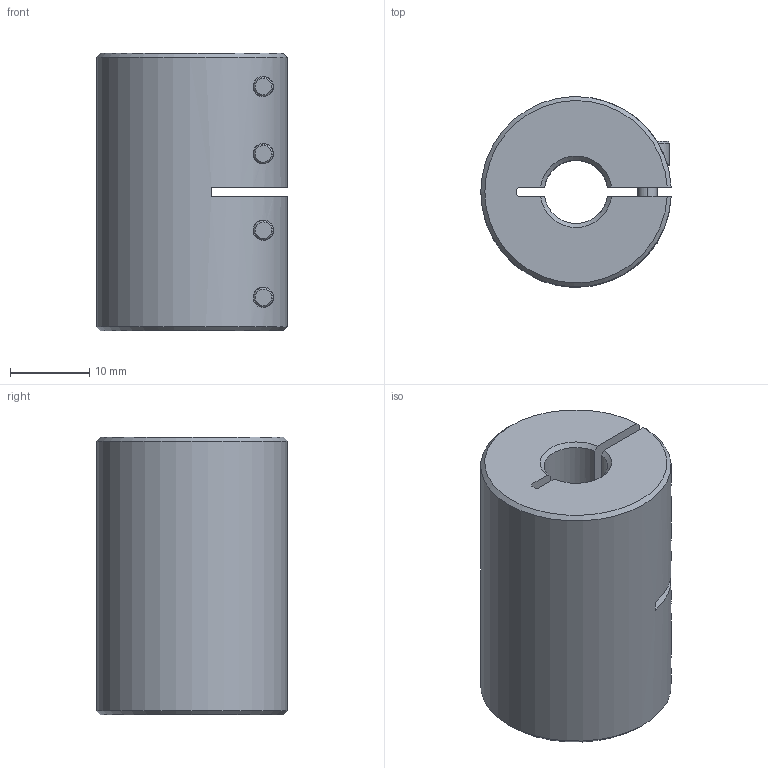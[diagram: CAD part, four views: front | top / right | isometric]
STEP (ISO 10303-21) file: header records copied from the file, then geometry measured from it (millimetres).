
FILE_DESCRIPTION((''),'2;1');
FILE_NAME('MCLX-8-8-X','2016-09-07T',('SYSTEM'),(''),'PRO/ENGINEER BY PARAMETRIC TECHNOLOGY CORPORATION, 2015110','PRO/ENGINEER BY PARAMETRIC TECHNOLOGY CORPORATION, 2015110','');
FILE_SCHEMA(('AUTOMOTIVE_DESIGN { 1 0 10303 214 1 1 1 1 }'));
Length unit declared in the file: inch
Products named in the file (1): MCLX-8-8-X
Bounding box: 23.99 x 23.99 x 35 mm (x, y, z)
Volume: 13113 mm3; surface area: 6292.6 mm2
Topology: 1 solids, 1 shells, 126 faces, 301 edges, 193 vertices
Faces by surface type: plane 65, cylinder 39, cone 22
Entity records: 4849 total; most frequent: CARTESIAN_POINT 911, DIRECTION 634, ORIENTED_EDGE 602, EDGE_CURVE 301, AXIS2_PLACEMENT_3D 231, VERTEX_POINT 193, VECTOR 172, LINE 172
